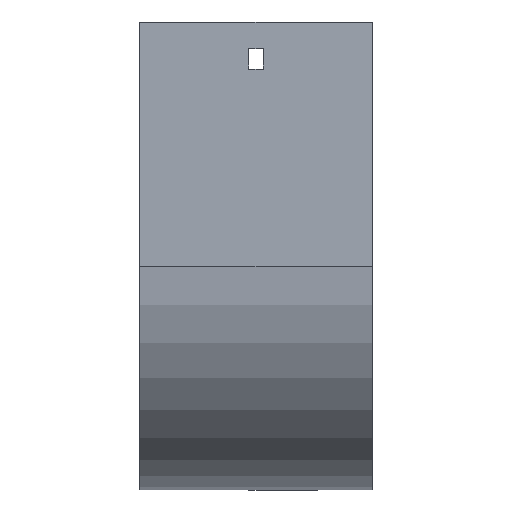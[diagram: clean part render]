
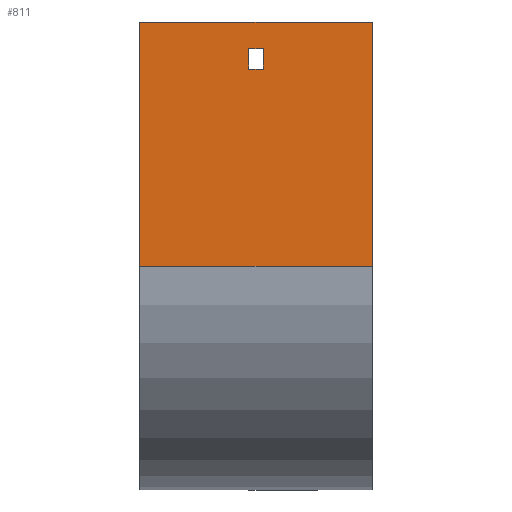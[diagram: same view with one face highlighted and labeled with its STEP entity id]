
A CAD part, front view. The second image highlights one B-rep face of the part: STEP entity #811.
In plain terms, the highlighted planar face has unit normal (0, -1, 0).
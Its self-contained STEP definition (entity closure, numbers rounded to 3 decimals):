
#10 = VECTOR ( 'NONE', #531, 1000. ) ;
#43 = DIRECTION ( 'NONE',  ( 0., 1., 0. ) ) ;
#53 = FACE_OUTER_BOUND ( 'NONE', #810, .T. ) ;
#128 = AXIS2_PLACEMENT_3D ( 'NONE', #1060, #43, #1655 ) ;
#137 = DIRECTION ( 'NONE',  ( 0., 0., -1. ) ) ;
#150 = VERTEX_POINT ( 'NONE', #210 ) ;
#159 = VECTOR ( 'NONE', #1199, 1000. ) ;
#179 = CARTESIAN_POINT ( 'NONE',  ( 52., -79., -109. ) ) ;
#185 = CARTESIAN_POINT ( 'NONE',  ( -3.25, -79., -21. ) ) ;
#210 = CARTESIAN_POINT ( 'NONE',  ( -52., -79., 0. ) ) ;
#260 = LINE ( 'NONE', #294, #724 ) ;
#294 = CARTESIAN_POINT ( 'NONE',  ( 3.25, -79., -21. ) ) ;
#371 = EDGE_CURVE ( 'NONE', #797, #644, #1677, .T. ) ;
#383 = VECTOR ( 'NONE', #1176, 1000. ) ;
#388 = VERTEX_POINT ( 'NONE', #632 ) ;
#422 = CARTESIAN_POINT ( 'NONE',  ( 3.25, -79., -12. ) ) ;
#459 = FACE_BOUND ( 'NONE', #1331, .T. ) ;
#484 = VERTEX_POINT ( 'NONE', #649 ) ;
#495 = CARTESIAN_POINT ( 'NONE',  ( -3.25, -79., -12. ) ) ;
#519 = EDGE_CURVE ( 'NONE', #388, #150, #533, .T. ) ;
#531 = DIRECTION ( 'NONE',  ( -1., 0., 0. ) ) ;
#533 = LINE ( 'NONE', #1248, #1352 ) ;
#577 = LINE ( 'NONE', #185, #383 ) ;
#589 = ORIENTED_EDGE ( 'NONE', *, *, #1865, .T. ) ;
#632 = CARTESIAN_POINT ( 'NONE',  ( 52., -79., 0. ) ) ;
#637 = CARTESIAN_POINT ( 'NONE',  ( -3.25, -79., -12. ) ) ;
#644 = VERTEX_POINT ( 'NONE', #1142 ) ;
#649 = CARTESIAN_POINT ( 'NONE',  ( 3.25, -79., -21. ) ) ;
#667 = LINE ( 'NONE', #1275, #1045 ) ;
#724 = VECTOR ( 'NONE', #137, 1000. ) ;
#789 = PLANE ( 'NONE',  #128 ) ;
#797 = VERTEX_POINT ( 'NONE', #1394 ) ;
#810 = EDGE_LOOP ( 'NONE', ( #589, #1411, #1467, #1195 ) ) ;
#811 = ADVANCED_FACE ( 'NONE', ( #459, #53 ), #789, .F. ) ;
#839 = EDGE_CURVE ( 'NONE', #484, #1944, #846, .T. ) ;
#846 = LINE ( 'NONE', #1907, #10 ) ;
#976 = CARTESIAN_POINT ( 'NONE',  ( -3.25, -79., -21. ) ) ;
#994 = LINE ( 'NONE', #1259, #1263 ) ;
#1018 = VERTEX_POINT ( 'NONE', #422 ) ;
#1045 = VECTOR ( 'NONE', #1741, 1000. ) ;
#1060 = CARTESIAN_POINT ( 'NONE',  ( 52., -79., -109. ) ) ;
#1122 = DIRECTION ( 'NONE',  ( -1., 0., 0. ) ) ;
#1142 = CARTESIAN_POINT ( 'NONE',  ( -52., -79., -109. ) ) ;
#1176 = DIRECTION ( 'NONE',  ( 0., 0., 1. ) ) ;
#1195 = ORIENTED_EDGE ( 'NONE', *, *, #519, .T. ) ;
#1199 = DIRECTION ( 'NONE',  ( -1., 0., 0. ) ) ;
#1234 = DIRECTION ( 'NONE',  ( 1., 0., 0. ) ) ;
#1248 = CARTESIAN_POINT ( 'NONE',  ( 52., -79., 0. ) ) ;
#1254 = EDGE_CURVE ( 'NONE', #1796, #1018, #1383, .T. ) ;
#1259 = CARTESIAN_POINT ( 'NONE',  ( -52., -79., -109. ) ) ;
#1263 = VECTOR ( 'NONE', #1586, 1000. ) ;
#1275 = CARTESIAN_POINT ( 'NONE',  ( 52., -79., -109. ) ) ;
#1331 = EDGE_LOOP ( 'NONE', ( #1905, #1724, #1635, #1377 ) ) ;
#1352 = VECTOR ( 'NONE', #1122, 1000. ) ;
#1377 = ORIENTED_EDGE ( 'NONE', *, *, #1448, .T. ) ;
#1383 = LINE ( 'NONE', #637, #1419 ) ;
#1394 = CARTESIAN_POINT ( 'NONE',  ( 52., -79., -109. ) ) ;
#1411 = ORIENTED_EDGE ( 'NONE', *, *, #371, .F. ) ;
#1419 = VECTOR ( 'NONE', #1234, 1000. ) ;
#1448 = EDGE_CURVE ( 'NONE', #1018, #484, #260, .T. ) ;
#1467 = ORIENTED_EDGE ( 'NONE', *, *, #1599, .F. ) ;
#1586 = DIRECTION ( 'NONE',  ( 0., 0., -1. ) ) ;
#1599 = EDGE_CURVE ( 'NONE', #388, #797, #667, .T. ) ;
#1635 = ORIENTED_EDGE ( 'NONE', *, *, #1254, .T. ) ;
#1655 = DIRECTION ( 'NONE',  ( 0., 0., 1. ) ) ;
#1677 = LINE ( 'NONE', #179, #159 ) ;
#1718 = EDGE_CURVE ( 'NONE', #1944, #1796, #577, .T. ) ;
#1724 = ORIENTED_EDGE ( 'NONE', *, *, #1718, .T. ) ;
#1741 = DIRECTION ( 'NONE',  ( 0., 0., -1. ) ) ;
#1796 = VERTEX_POINT ( 'NONE', #495 ) ;
#1865 = EDGE_CURVE ( 'NONE', #150, #644, #994, .T. ) ;
#1905 = ORIENTED_EDGE ( 'NONE', *, *, #839, .T. ) ;
#1907 = CARTESIAN_POINT ( 'NONE',  ( -3.25, -79., -21. ) ) ;
#1944 = VERTEX_POINT ( 'NONE', #976 ) ;
